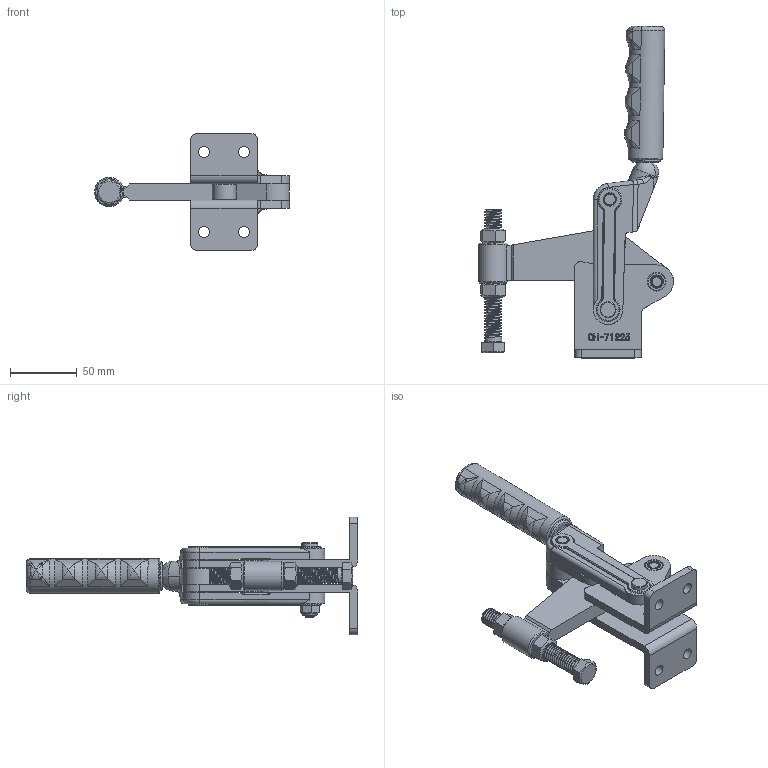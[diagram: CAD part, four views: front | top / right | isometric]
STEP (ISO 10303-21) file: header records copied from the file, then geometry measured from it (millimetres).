
FILE_DESCRIPTION(/* description */ ('STEP AP203'),/* implementation_level */ '2;1');
FILE_NAME(/* name */ 'D:\Vault_2016\Projekty\NASZ KATALOG\CLAMPTEK\STRONA\Heavy duty weldables\CH-71225\CH-71225_ZAMKNIETY.stp',/* time_stamp */ '2019-01-21T09:19:24+01:00',/* author */ ('CADENGINEERING4'),/* organization */ ('Î¢ÈíÖÐ¹ú'),/* preprocessor_version */ 'ST-DEVELOPER v17.2',/* originating_system */ 'Autodesk Inventor 2019',/* authorisation */ '');
FILE_SCHEMA (('AUTOMOTIVE_DESIGN { 1 0 10303 214 3 1 1 }'));
Products named in the file (14): CH-71225_ZAMKNIETY; 71225-04_Ä¬ÈÏ_°´¼Ó¹
¤_; 1210017-01_Ä¬ÈÏ; 1210017-02_Ä¬ÈÏ; 71220-04_Ä¬ÈÏ_°´¼Ó¹
¤_; M8_Ä¬ÈÏ; 71225-01_Ä¬ÈÏ; 71220-07_Ä¬ÈÏ; 71220-11_Ä¬ÈÏ; 71220-09_Ä¬ÈÏ; 71220-03_Ä¬ÈÏ; 71220-08_Ä¬ÈÏ; 71220-06_Ä¬ÈÏ; 71220-10_Ä¬ÈÏ
Assembly tree (23 placements, depth 2):
  CH-71225_ZAMKNIETY
    71225-04_Ä¬ÈÏ_°´¼Ó¹
¤_
    1210017-02_Ä¬ÈÏ  x2
    71220-06_Ä¬ÈÏ  x8
    1210017-01_Ä¬ÈÏ
    71220-03_Ä¬ÈÏ  x2
    71220-08_Ä¬ÈÏ  x2
    71220-04_Ä¬ÈÏ_°´¼Ó¹
¤_
    M8_Ä¬ÈÏ
    71225-01_Ä¬ÈÏ
    71220-07_Ä¬ÈÏ
    71220-11_Ä¬ÈÏ
    71220-09_Ä¬ÈÏ
    71220-10_Ä¬ÈÏ
Bounding box: 146 x 248.58 x 88 mm (x, y, z)
Volume: 285984.7 mm3; surface area: 116372.5 mm2
Topology: 28 solids, 28 shells, 2200 faces, 6402 edges, 4281 vertices
Faces by surface type: plane 988, cylinder 866, bspline 206, cone 89, torus 47, sphere 4
Full cylindrical faces by diameter (mm): 3 x1, 4.2 x1, 5.6 x1, 6.5 x5, 7 x1, 8 x6, 8.3 x4, 9 x15, 9.1 x1, 10.5 x8, 11 x1, 12 x1, 12.2 x1, 12.7 x46, 14 x16, 18 x1, 22 x3, 26 x1
Entity records: 92299 total; most frequent: CARTESIAN_POINT 44888, ORIENTED_EDGE 10338, DIRECTION 9298, EDGE_CURVE 5169, VERTEX_POINT 3453, AXIS2_PLACEMENT_3D 3122, LINE 3054, VECTOR 3054
